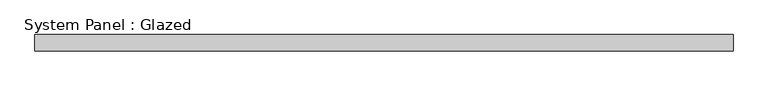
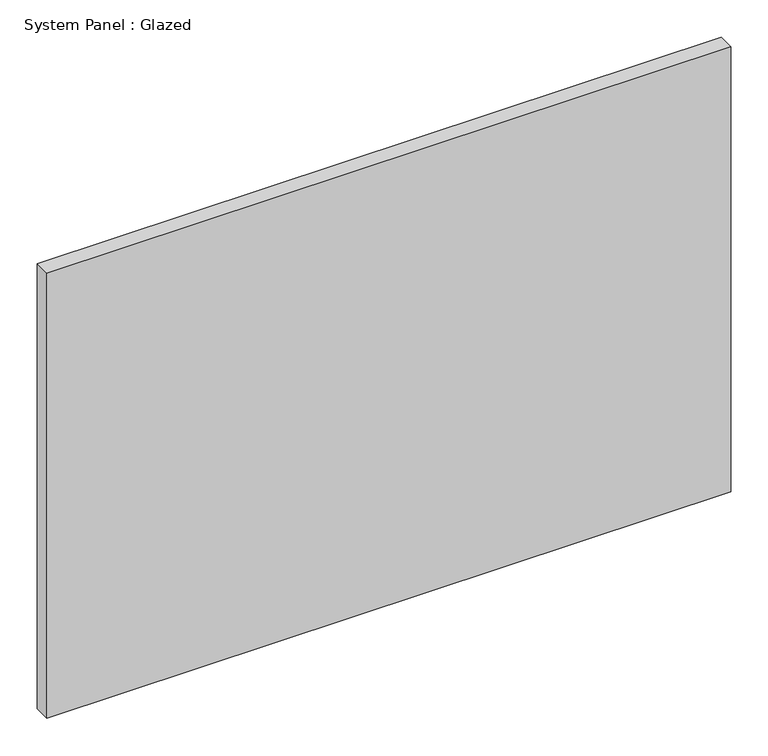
"""IFC4 building model written with IfcOpenShell, lengths in millimetres: plate geometry, System Panel : Glazed."""

import ifcopenshell
import ifcopenshell.guid

model = None  # the IFC model being written
_history = None  # IfcOwnerHistory: only IFC2X3 demands one
_inside = {}  # id of a spatial element -> (the spatial element, [elements in it])
_under = {}  # id of a project, library or spatial element -> (it, [spatial elements below it])
_declared = {}  # id of a project -> (the project, [libraries it declares])
_typed = {}  # id of a type object -> (the type object, [elements of that type])
_made_of = {}  # id of a material, layer set ... -> (it, [elements and type objects made of it])


def new_model(schema):
    """Start an empty IFC model of exactly this schema.

    Asked for "IFC4X3", IfcOpenShell would pick the latest addendum, in which some entities
    have other attributes; the version numbers below select the first issue.
    IFC2X3 requires an IfcOwnerHistory on every rooted entity: one is made here for all.
    """
    global model, _history
    if schema == "IFC4X3":
        model = ifcopenshell.file(schema_version=(4, 3, 0, 0))
    else:
        model = ifcopenshell.file(schema=schema)
    _inside.clear()
    _under.clear()
    _declared.clear()
    _typed.clear()
    _made_of.clear()
    _history = None
    if model.schema == "IFC2X3":
        org = make("IfcOrganization", Name="unknown")
        user = make(
            "IfcPersonAndOrganization",
            ThePerson=make("IfcPerson", FamilyName="unknown"),
            TheOrganization=org,
        )
        app = make(
            "IfcApplication",
            ApplicationDeveloper=org,
            Version="unknown",
            ApplicationFullName="unknown",
            ApplicationIdentifier="unknown",
        )
        _history = make(
            "IfcOwnerHistory",
            OwningUser=user,
            OwningApplication=app,
            ChangeAction="ADDED",
            CreationDate=0,
        )
    return model


def make(cls, **values):
    """One entity of the class cls with the attributes given. An attribute that is None is left unset."""
    return model.create_entity(
        cls, **{name: value for name, value in values.items() if value is not None}
    )


def rooted(cls, **values):
    """An entity with a GlobalId (a new one), such as an element, a storey or a relation."""
    return make(cls, GlobalId=ifcopenshell.guid.new(), OwnerHistory=_history, **values)


def si_unit(unit_type, name, prefix=None):
    """IfcSIUnit, for example si_unit("LENGTHUNIT", "METRE", prefix="MILLI")."""
    return make("IfcSIUnit", UnitType=unit_type, Prefix=prefix, Name=name)


def assignment(units):
    """IfcUnitAssignment: the units of a project."""
    return None if units is None else make("IfcUnitAssignment", Units=units)


def point(xyz):
    """IfcCartesianPoint."""
    return None if xyz is None else make("IfcCartesianPoint", Coordinates=xyz)


def direction(xyz):
    """IfcDirection."""
    return None if xyz is None else make("IfcDirection", DirectionRatios=xyz)


def frame(location, z_axis=None, x_axis=None):
    """IfcAxis2Placement3D, a coordinate frame: its origin and axes. An axis left out is left unset."""
    return make(
        "IfcAxis2Placement3D",
        Location=point(location),
        Axis=direction(z_axis),
        RefDirection=direction(x_axis),
    )


def origin():
    """The frame at (0, 0, 0) with its axes left unset."""
    return frame((0.0, 0.0, 0.0))


def origin_with_axes():
    """The frame at (0, 0, 0) with the z axis (0, 0, 1) and the x axis (1, 0, 0) written out."""
    return frame((0.0, 0.0, 0.0), z_axis=(0.0, 0.0, 1.0), x_axis=(1.0, 0.0, 0.0))


def place(relative_to, where):
    """IfcLocalPlacement: puts the frame where relative to a parent placement (None: the world)."""
    return make(
        "IfcLocalPlacement", PlacementRelTo=relative_to, RelativePlacement=where
    )


def context(
    kind, dimensions, precision=None, world=None, true_north=None, identifier=None
):
    """IfcGeometricRepresentationContext, for example the 3D "Model" context."""
    return make(
        "IfcGeometricRepresentationContext",
        ContextIdentifier=identifier,
        ContextType=kind,
        CoordinateSpaceDimension=dimensions,
        Precision=precision,
        WorldCoordinateSystem=world,
        TrueNorth=true_north,
    )


def project(units=None, contexts=None):
    """IfcProject with its units and contexts."""
    return rooted(
        "IfcProject",
        Name="project",
        RepresentationContexts=contexts,
        UnitsInContext=assignment(units),
    )


def spatial(cls, under=None, at=None, **own):
    """A site, building, storey or space (cls), placed at a placement, below another one or the project."""
    s = rooted(cls, ObjectPlacement=at, **own)
    if under is not None:
        _under.setdefault(under.id(), (under, []))[1].append(s)
    return s


def polyline(points):
    """IfcPolyline through the points."""
    return make("IfcPolyline", Points=[point(p) for p in points])


def outline(outer, holes=None, kind="AREA"):
    """IfcArbitraryClosedProfileDef: a profile drawn as a closed curve; with holes, ...WithVoids."""
    if holes is None:
        return make("IfcArbitraryClosedProfileDef", ProfileType=kind, OuterCurve=outer)
    return make(
        "IfcArbitraryProfileDefWithVoids",
        ProfileType=kind,
        OuterCurve=outer,
        InnerCurves=holes,
    )


def extrude(swept, where, along, depth):
    """IfcExtrudedAreaSolid: the profile swept, set in the frame where, extruded along a direction by depth."""
    return make(
        "IfcExtrudedAreaSolid",
        SweptArea=swept,
        Position=where,
        ExtrudedDirection=direction(along),
        Depth=depth,
    )


def shape(context_of_items, identifier, shape_type, items):
    """IfcShapeRepresentation: the items that make up one representation, for example the "Body"."""
    return make(
        "IfcShapeRepresentation",
        ContextOfItems=context_of_items,
        RepresentationIdentifier=identifier,
        RepresentationType=shape_type,
        Items=items,
    )


def source(mapping_origin, context_of_items, identifier, shape_type, items):
    """IfcRepresentationMap: a shape defined once, which mapped items show again and again."""
    return make(
        "IfcRepresentationMap",
        MappingOrigin=mapping_origin,
        MappedRepresentation=shape(context_of_items, identifier, shape_type, items),
    )


def transform(
    local_origin,
    x_axis=None,
    y_axis=None,
    z_axis=None,
    scale=None,
    scale2=None,
    scale3=None,
    uniform=True,
):
    """IfcCartesianTransformationOperator3D, or its non-uniform kind. x_axis, y_axis, z_axis: its Axis1, 2, 3."""
    if uniform:
        return make(
            "IfcCartesianTransformationOperator3D",
            Axis1=direction(x_axis),
            Axis2=direction(y_axis),
            LocalOrigin=point(local_origin),
            Scale=scale,
            Axis3=direction(z_axis),
        )
    return make(
        "IfcCartesianTransformationOperator3DnonUniform",
        Axis1=direction(x_axis),
        Axis2=direction(y_axis),
        LocalOrigin=point(local_origin),
        Scale=scale,
        Axis3=direction(z_axis),
        Scale2=scale2,
        Scale3=scale3,
    )


def mapped(mapping_source, mapping_target):
    """IfcMappedItem: shows the shape of a source again, moved by a transform."""
    return make(
        "IfcMappedItem", MappingSource=mapping_source, MappingTarget=mapping_target
    )


def made_of(thing, what):
    """Note that an element or type object is made of a material, layer set ...; save() writes the relation."""
    if what is not None:
        _made_of.setdefault(what.id(), (what, []))[1].append(thing)
    return thing


def element(
    cls,
    number,
    at=None,
    inside=None,
    cuts=None,
    type_object=None,
    material=None,
    context=None,
    identifier="Body",
    shape_type=None,
    held_by="IfcProductDefinitionShape",
    body=None,
    shapes=None,
    **own,
):
    """One element of the class cls, such as IfcWall. Its Tag is "e" and its number.

    at: its placement. inside: the storey or other place that contains it. cuts: it is an
    opening in that element (IfcRelVoidsElement). A single representation is given by context,
    identifier, shape_type and body (its items); several are given by shapes. held_by: the class
    of the entity that holds the representations. save() writes the other relations.
    """
    e = rooted(cls, Tag="e%d" % number, ObjectPlacement=at, **own)
    if body is not None:
        shapes = [shape(context, identifier, shape_type, body)]
    if shapes is not None:
        e.Representation = make(held_by, Representations=shapes)
    if inside is not None:
        _inside.setdefault(inside.id(), (inside, []))[1].append(e)
    if cuts is not None:
        rooted(
            "IfcRelVoidsElement", RelatingBuildingElement=cuts, RelatedOpeningElement=e
        )
    if type_object is not None:
        _typed.setdefault(type_object.id(), (type_object, []))[1].append(e)
    return made_of(e, material)


def aggregate(whole, parts):
    """IfcRelAggregates: a whole, such as a stair, and the parts it consists of."""
    return rooted("IfcRelAggregates", RelatingObject=whole, RelatedObjects=parts)


def save(model, path):
    """Write the relations noted so far, then the file.

    IfcRelAggregates (storeys below a building ...), IfcRelContainedInSpatialStructure (elements
    in a storey), IfcRelDefinesByType, IfcRelAssociatesMaterial and IfcRelDeclares: one each for
    every whole, place, type object, material and project.
    """
    for whole, parts in _under.values():
        aggregate(whole, parts)
    for where, things in _inside.values():
        rooted(
            "IfcRelContainedInSpatialStructure",
            RelatedElements=things,
            RelatingStructure=where,
        )
    for kind, things in _typed.values():
        rooted("IfcRelDefinesByType", RelatedObjects=things, RelatingType=kind)
    for what, things in _made_of.values():
        rooted("IfcRelAssociatesMaterial", RelatedObjects=things, RelatingMaterial=what)
    for by, libraries in _declared.values():
        rooted("IfcRelDeclares", RelatingContext=by, RelatedDefinitions=libraries)
    model.write(path)


def system_panel_glazed_59d64d3e(model_context):
    return source(origin(), model_context, "Body", "SweptSolid", [
        extrude(outline(polyline([(526.4482856, 24.5), (-526.4482856, 24.5), (-526.4482856, 49.5), (526.4482856, 49.5), (526.4482856, 24.5)])), origin_with_axes(), (0.0, 0.0, 1.0), 724.4100674),
    ])


if __name__ == "__main__":
    model = new_model("IFC4")
    model_context = context("Model", 3, world=origin())
    ifc_project = project(units=[si_unit("LENGTHUNIT", "METRE", prefix="MILLI")], contexts=[model_context])
    site = spatial("IfcSite", under=ifc_project)
    building = spatial("IfcBuilding", under=site)
    placement = place(None, origin())
    system_panel_glazed_shape = system_panel_glazed_59d64d3e(model_context)
    element("IfcPlate", 1, ObjectType="System Panel : Glazed", at=placement, inside=building, context=model_context, shape_type="MappedRepresentation", body=[
        mapped(system_panel_glazed_shape, transform((0.0, 0.0, 0.0), x_axis=(1.0, 0.0, 0.0), y_axis=(0.0, 1.0, 0.0), z_axis=(0.0, 0.0, 1.0))),
    ])
    save(model, "model.ifc")
